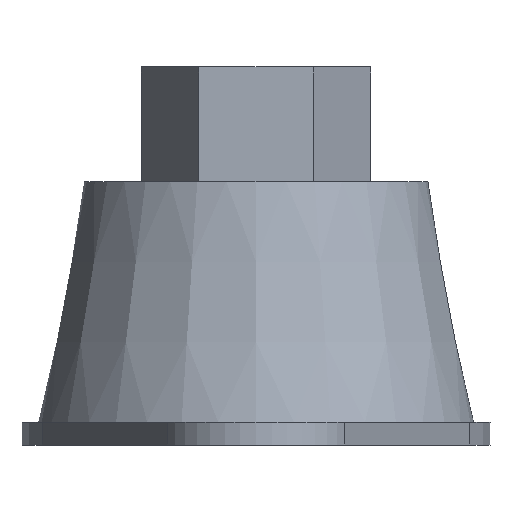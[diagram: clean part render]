
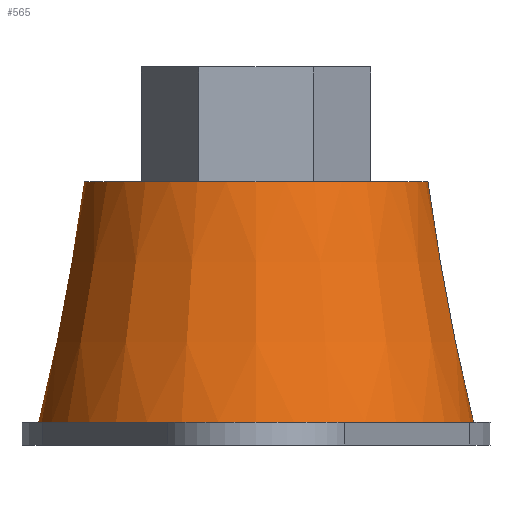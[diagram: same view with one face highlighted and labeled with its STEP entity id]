
A CAD part, left-side view. The second image highlights one B-rep face of the part: STEP entity #565.
In plain terms, the highlighted conical face has half-angle 10.784 degrees and reference radius 19 mm.
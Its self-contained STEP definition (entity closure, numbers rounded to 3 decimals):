
#144=CONICAL_SURFACE('',#616,19.,10.784);
#150=FACE_BOUND('',#210,.T.);
#169=FACE_OUTER_BOUND('',#209,.T.);
#209=EDGE_LOOP('',(#418));
#210=EDGE_LOOP('',(#419));
#258=CIRCLE('',#615,15.);
#259=CIRCLE('',#617,19.);
#280=VERTEX_POINT('',#846);
#287=VERTEX_POINT('',#861);
#334=EDGE_CURVE('',#280,#280,#258,.T.);
#341=EDGE_CURVE('',#287,#287,#259,.T.);
#418=ORIENTED_EDGE('',*,*,#334,.T.);
#419=ORIENTED_EDGE('',*,*,#341,.F.);
#565=ADVANCED_FACE('',(#169,#150),#144,.T.);
#615=AXIS2_PLACEMENT_3D('',#847,#684,#685);
#616=AXIS2_PLACEMENT_3D('',#860,#692,#693);
#617=AXIS2_PLACEMENT_3D('',#862,#694,#695);
#684=DIRECTION('center_axis',(0.,0.,-1.));
#685=DIRECTION('ref_axis',(1.,0.,0.));
#692=DIRECTION('center_axis',(0.,0.,-1.));
#693=DIRECTION('ref_axis',(-1.,0.,0.));
#694=DIRECTION('center_axis',(0.,0.,-1.));
#695=DIRECTION('ref_axis',(-1.,0.,0.));
#846=CARTESIAN_POINT('',(15.,0.,23.));
#847=CARTESIAN_POINT('Origin',(0.,0.,23.));
#860=CARTESIAN_POINT('Origin',(0.,0.,2.));
#861=CARTESIAN_POINT('',(-19.,0.,2.));
#862=CARTESIAN_POINT('Origin',(0.,0.,2.));
